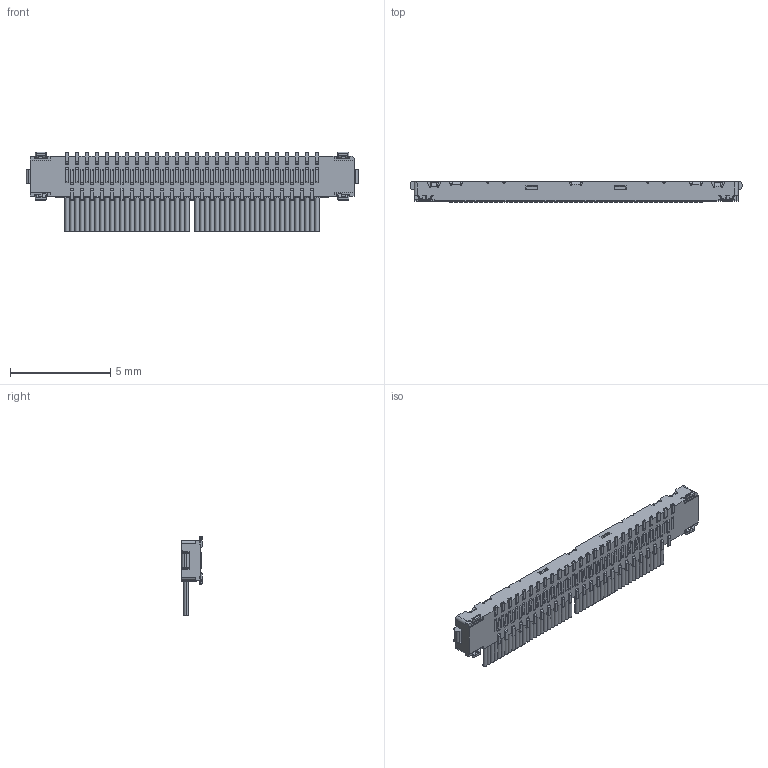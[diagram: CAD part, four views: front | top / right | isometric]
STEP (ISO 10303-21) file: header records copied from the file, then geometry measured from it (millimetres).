
FILE_DESCRIPTION (( 'STEP AP203' ), '1' );
FILE_NAME ('20531-050Txxx+20533-050EC MATING STEP R2R1R4 ALL.STEP', '2014-06-12T12:29:54', ( '' ), ( '' ), 'SwSTEP 2.0', 'SolidWorks 2012', '' );
FILE_SCHEMA (( 'CONFIG_CONTROL_DESIGN' ));
Length unit declared in the file: millimetre
Products named in the file (1): 20531-050Txxx+20533-050EC MATING STEP R2R1R4 ALL
Bounding box: 16.6 x 1.04 x 3.98 mm (x, y, z)
Volume: 34.6 mm3; surface area: 210.3 mm2
Topology: 1 solids, 7 shells, 2409 faces, 6593 edges, 4246 vertices
Faces by surface type: plane 1835, cylinder 560, cone 14
Entity records: 75420 total; most frequent: CARTESIAN_POINT 13589, ORIENTED_EDGE 13170, DIRECTION 12493, EDGE_CURVE 6585, LINE 5293, VECTOR 5293, VERTEX_POINT 4246, AXIS2_PLACEMENT_3D 3600
